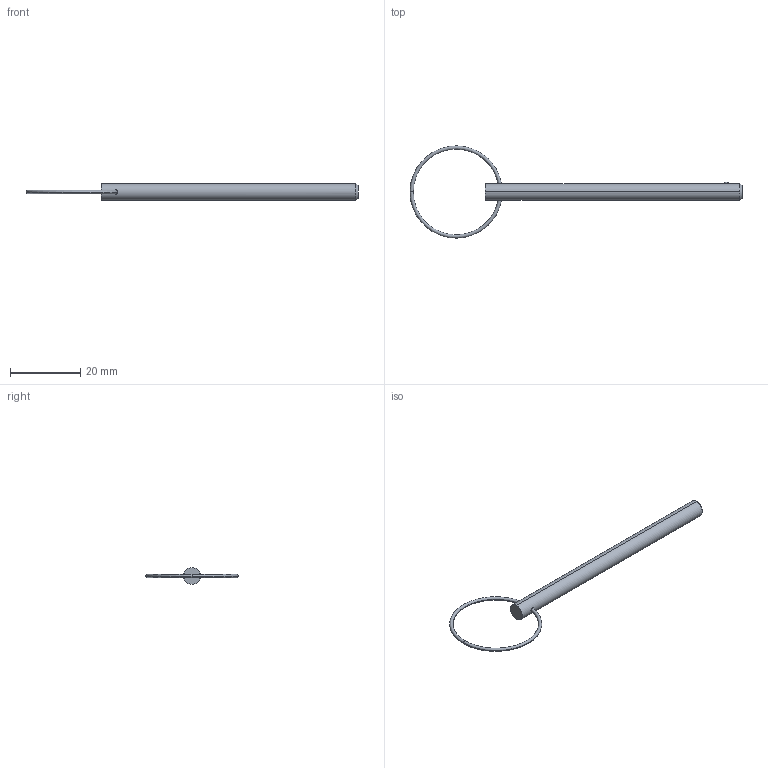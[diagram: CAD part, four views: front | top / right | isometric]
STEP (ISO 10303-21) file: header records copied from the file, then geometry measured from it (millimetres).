
FILE_DESCRIPTION (( 'STEP AP203' ), '1' );
FILE_NAME ('33012.W1825.step', '2024-11-01T14:06:12', ( '' ), ( '' ), 'SwSTEP 2.0', 'SolidWorks 2019', '' );
FILE_SCHEMA (( 'CONFIG_CONTROL_DESIGN' ));
Length unit declared in the file: millimetre
Products named in the file (3): Part2_33012.W1825; Part1_33012.W1825; 33012.W1825
Assembly tree (2 placements, depth 2):
  33012.W1825
    Part1_33012.W1825
    Part2_33012.W1825
Bounding box: 94.84 x 26.35 x 4.76 mm (x, y, z)
Volume: 1354.3 mm3; surface area: 1381.1 mm2
Topology: 2 solids, 2 shells, 16 faces, 31 edges, 18 vertices
Faces by surface type: torus 8, sphere 2, cone 2, cylinder 2, plane 2
Entity records: 779 total; most frequent: CARTESIAN_POINT 136, DIRECTION 88, ORIENTED_EDGE 62, AXIS2_PLACEMENT_3D 42, EDGE_CURVE 31, PERSON_AND_ORGANIZATION 26, CIRCLE 21, LOCAL_TIME 19
